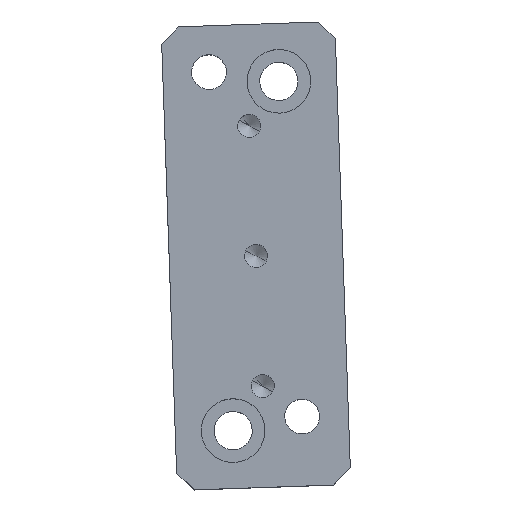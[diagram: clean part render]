
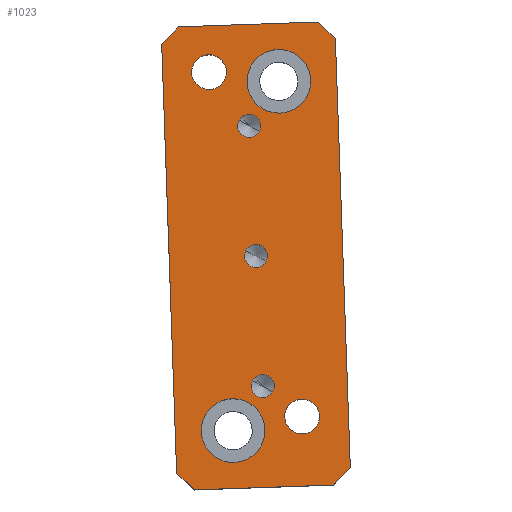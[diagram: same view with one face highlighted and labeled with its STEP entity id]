
A CAD part, top view. The second image highlights one B-rep face of the part: STEP entity #1023.
In plain terms, the highlighted planar face has unit normal (0, 0, 1).
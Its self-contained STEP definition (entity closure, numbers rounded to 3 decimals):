
#38=AXIS2_PLACEMENT_3D('Circle Axis2P3D',#36,#37,$) ;
#81=AXIS2_PLACEMENT_3D('Circle Axis2P3D',#79,#80,$) ;
#327=AXIS2_PLACEMENT_3D('Circle Axis2P3D',#325,#326,$) ;
#354=AXIS2_PLACEMENT_3D('Circle Axis2P3D',#352,#353,$) ;
#372=AXIS2_PLACEMENT_3D('Circle Axis2P3D',#370,#371,$) ;
#399=AXIS2_PLACEMENT_3D('Circle Axis2P3D',#397,#398,$) ;
#417=AXIS2_PLACEMENT_3D('Circle Axis2P3D',#415,#416,$) ;
#444=AXIS2_PLACEMENT_3D('Circle Axis2P3D',#442,#443,$) ;
#462=AXIS2_PLACEMENT_3D('Circle Axis2P3D',#460,#461,$) ;
#489=AXIS2_PLACEMENT_3D('Circle Axis2P3D',#487,#488,$) ;
#507=AXIS2_PLACEMENT_3D('Circle Axis2P3D',#505,#506,$) ;
#534=AXIS2_PLACEMENT_3D('Circle Axis2P3D',#532,#533,$) ;
#642=AXIS2_PLACEMENT_3D('Circle Axis2P3D',#640,#641,$) ;
#678=AXIS2_PLACEMENT_3D('Circle Axis2P3D',#676,#677,$) ;
#978=AXIS2_PLACEMENT_3D('Plane Axis2P3D',#975,#976,#977) ;
#36=CARTESIAN_POINT('Axis2P3D Location',(-8.113,31.736,-3.)) ;
#40=CARTESIAN_POINT('Vertex',(-5.48,30.298,-3.)) ;
#42=CARTESIAN_POINT('Vertex',(-10.745,33.174,-3.)) ;
#79=CARTESIAN_POINT('Axis2P3D Location',(-8.113,31.736,-3.)) ;
#325=CARTESIAN_POINT('Axis2P3D Location',(-1.178,22.469,-3.)) ;
#329=CARTESIAN_POINT('Vertex',(-2.933,23.428,-3.)) ;
#331=CARTESIAN_POINT('Vertex',(0.578,21.51,-3.)) ;
#352=CARTESIAN_POINT('Axis2P3D Location',(-1.178,22.469,-3.)) ;
#370=CARTESIAN_POINT('Axis2P3D Location',(1.178,-22.469,-3.)) ;
#374=CARTESIAN_POINT('Vertex',(-0.578,-21.51,-3.)) ;
#376=CARTESIAN_POINT('Vertex',(2.933,-23.428,-3.)) ;
#397=CARTESIAN_POINT('Axis2P3D Location',(1.178,-22.469,-3.)) ;
#415=CARTESIAN_POINT('Axis2P3D Location',(0.,0.,-3.)) ;
#419=CARTESIAN_POINT('Vertex',(1.755,-0.959,-3.)) ;
#421=CARTESIAN_POINT('Vertex',(-1.755,0.959,-3.)) ;
#442=CARTESIAN_POINT('Axis2P3D Location',(0.,0.,-3.)) ;
#460=CARTESIAN_POINT('Axis2P3D Location',(-3.95,-30.156,-3.)) ;
#464=CARTESIAN_POINT('Vertex',(0.877,-32.793,-3.)) ;
#466=CARTESIAN_POINT('Vertex',(-8.777,-27.519,-3.)) ;
#487=CARTESIAN_POINT('Axis2P3D Location',(-3.95,-30.156,-3.)) ;
#505=CARTESIAN_POINT('Axis2P3D Location',(3.95,30.156,-3.)) ;
#509=CARTESIAN_POINT('Vertex',(-0.877,32.793,-3.)) ;
#511=CARTESIAN_POINT('Vertex',(8.777,27.519,-3.)) ;
#532=CARTESIAN_POINT('Axis2P3D Location',(3.95,30.156,-3.)) ;
#640=CARTESIAN_POINT('Axis2P3D Location',(7.973,-27.739,-3.)) ;
#644=CARTESIAN_POINT('Vertex',(10.606,-29.177,-3.)) ;
#646=CARTESIAN_POINT('Vertex',(5.34,-26.3,-3.)) ;
#676=CARTESIAN_POINT('Axis2P3D Location',(7.973,-27.739,-3.)) ;
#703=CARTESIAN_POINT('Vertex',(-16.282,36.454,-3.)) ;
#708=CARTESIAN_POINT('Line Origine',(-14.835,38.005,-3.)) ;
#712=CARTESIAN_POINT('Vertex',(-13.389,39.557,-3.)) ;
#746=CARTESIAN_POINT('Line Origine',(-1.396,39.976,-3.)) ;
#750=CARTESIAN_POINT('Vertex',(10.597,40.394,-3.)) ;
#770=CARTESIAN_POINT('Line Origine',(12.148,38.948,-3.)) ;
#774=CARTESIAN_POINT('Vertex',(13.7,37.501,-3.)) ;
#801=CARTESIAN_POINT('Line Origine',(-14.991,-0.523,-3.)) ;
#805=CARTESIAN_POINT('Vertex',(-13.7,-37.501,-3.)) ;
#844=CARTESIAN_POINT('Vertex',(-10.597,-40.394,-3.)) ;
#849=CARTESIAN_POINT('Line Origine',(-12.148,-38.948,-3.)) ;
#878=CARTESIAN_POINT('Line Origine',(14.991,0.523,-3.)) ;
#882=CARTESIAN_POINT('Vertex',(16.282,-36.454,-3.)) ;
#910=CARTESIAN_POINT('Line Origine',(1.396,-39.976,-3.)) ;
#914=CARTESIAN_POINT('Vertex',(13.389,-39.557,-3.)) ;
#975=CARTESIAN_POINT('Axis2P3D Location',(0.,0.,-3.)) ;
#980=CARTESIAN_POINT('Line Origine',(14.835,-38.005,-3.)) ;
#37=DIRECTION('Axis2P3D Direction',(0.,-0.,-1.)) ;
#80=DIRECTION('Axis2P3D Direction',(0.,-0.,-1.)) ;
#326=DIRECTION('Axis2P3D Direction',(0.,-0.,-1.)) ;
#353=DIRECTION('Axis2P3D Direction',(0.,-0.,-1.)) ;
#371=DIRECTION('Axis2P3D Direction',(0.,-0.,-1.)) ;
#398=DIRECTION('Axis2P3D Direction',(0.,-0.,-1.)) ;
#416=DIRECTION('Axis2P3D Direction',(0.,-0.,-1.)) ;
#443=DIRECTION('Axis2P3D Direction',(0.,-0.,-1.)) ;
#461=DIRECTION('Axis2P3D Direction',(0.,-0.,-1.)) ;
#488=DIRECTION('Axis2P3D Direction',(0.,-0.,-1.)) ;
#506=DIRECTION('Axis2P3D Direction',(0.,-0.,-1.)) ;
#533=DIRECTION('Axis2P3D Direction',(0.,-0.,-1.)) ;
#641=DIRECTION('Axis2P3D Direction',(0.,-0.,-1.)) ;
#677=DIRECTION('Axis2P3D Direction',(0.,-0.,-1.)) ;
#709=DIRECTION('Vector Direction',(-0.682,-0.731,0.)) ;
#747=DIRECTION('Vector Direction',(0.999,0.035,0.)) ;
#771=DIRECTION('Vector Direction',(0.731,-0.682,0.)) ;
#802=DIRECTION('Vector Direction',(-0.035,0.999,0.)) ;
#850=DIRECTION('Vector Direction',(-0.731,0.682,0.)) ;
#879=DIRECTION('Vector Direction',(0.035,-0.999,0.)) ;
#911=DIRECTION('Vector Direction',(-0.999,-0.035,0.)) ;
#976=DIRECTION('Axis2P3D Direction',(0.,0.,1.)) ;
#977=DIRECTION('Axis2P3D XDirection',(1.,0.,0.)) ;
#981=DIRECTION('Vector Direction',(-0.682,-0.731,0.)) ;
#710=VECTOR('Line Direction',#709,1.) ;
#748=VECTOR('Line Direction',#747,1.) ;
#772=VECTOR('Line Direction',#771,1.) ;
#803=VECTOR('Line Direction',#802,1.) ;
#851=VECTOR('Line Direction',#850,1.) ;
#880=VECTOR('Line Direction',#879,1.) ;
#912=VECTOR('Line Direction',#911,1.) ;
#982=VECTOR('Line Direction',#981,1.) ;
#986=ORIENTED_EDGE('',*,*,#884,.T.) ;
#987=ORIENTED_EDGE('',*,*,#776,.F.) ;
#988=ORIENTED_EDGE('',*,*,#752,.T.) ;
#989=ORIENTED_EDGE('',*,*,#714,.F.) ;
#990=ORIENTED_EDGE('',*,*,#807,.T.) ;
#991=ORIENTED_EDGE('',*,*,#853,.F.) ;
#992=ORIENTED_EDGE('',*,*,#916,.T.) ;
#993=ORIENTED_EDGE('',*,*,#984,.F.) ;
#996=ORIENTED_EDGE('',*,*,#648,.F.) ;
#997=ORIENTED_EDGE('',*,*,#680,.F.) ;
#1000=ORIENTED_EDGE('',*,*,#83,.F.) ;
#1001=ORIENTED_EDGE('',*,*,#44,.F.) ;
#1004=ORIENTED_EDGE('',*,*,#536,.F.) ;
#1005=ORIENTED_EDGE('',*,*,#513,.F.) ;
#1008=ORIENTED_EDGE('',*,*,#491,.F.) ;
#1009=ORIENTED_EDGE('',*,*,#468,.F.) ;
#1012=ORIENTED_EDGE('',*,*,#446,.F.) ;
#1013=ORIENTED_EDGE('',*,*,#423,.F.) ;
#1016=ORIENTED_EDGE('',*,*,#401,.F.) ;
#1017=ORIENTED_EDGE('',*,*,#378,.F.) ;
#1020=ORIENTED_EDGE('',*,*,#356,.F.) ;
#1021=ORIENTED_EDGE('',*,*,#333,.F.) ;
#998=FACE_BOUND('',#995,.T.) ;
#1002=FACE_BOUND('',#999,.T.) ;
#1006=FACE_BOUND('',#1003,.T.) ;
#1010=FACE_BOUND('',#1007,.T.) ;
#1014=FACE_BOUND('',#1011,.T.) ;
#1018=FACE_BOUND('',#1015,.T.) ;
#1022=FACE_BOUND('',#1019,.T.) ;
#1023=ADVANCED_FACE('PartBody',(#994,#998,#1002,#1006,#1010,#1014,#1018,#1022),#979,.T.) ;
#39=CIRCLE('generated circle',#38,3.) ;
#82=CIRCLE('generated circle',#81,3.) ;
#328=CIRCLE('generated circle',#327,2.) ;
#355=CIRCLE('generated circle',#354,2.) ;
#373=CIRCLE('generated circle',#372,2.) ;
#400=CIRCLE('generated circle',#399,2.) ;
#418=CIRCLE('generated circle',#417,2.) ;
#445=CIRCLE('generated circle',#444,2.) ;
#463=CIRCLE('generated circle',#462,5.5) ;
#490=CIRCLE('generated circle',#489,5.5) ;
#508=CIRCLE('generated circle',#507,5.5) ;
#535=CIRCLE('generated circle',#534,5.5) ;
#643=CIRCLE('generated circle',#642,3.) ;
#679=CIRCLE('generated circle',#678,3.) ;
#44=EDGE_CURVE('',#41,#43,#39,.F.) ;
#83=EDGE_CURVE('',#43,#41,#82,.F.) ;
#333=EDGE_CURVE('',#330,#332,#328,.F.) ;
#356=EDGE_CURVE('',#332,#330,#355,.F.) ;
#378=EDGE_CURVE('',#375,#377,#373,.F.) ;
#401=EDGE_CURVE('',#377,#375,#400,.F.) ;
#423=EDGE_CURVE('',#420,#422,#418,.F.) ;
#446=EDGE_CURVE('',#422,#420,#445,.F.) ;
#468=EDGE_CURVE('',#465,#467,#463,.F.) ;
#491=EDGE_CURVE('',#467,#465,#490,.F.) ;
#513=EDGE_CURVE('',#510,#512,#508,.F.) ;
#536=EDGE_CURVE('',#512,#510,#535,.F.) ;
#648=EDGE_CURVE('',#645,#647,#643,.F.) ;
#680=EDGE_CURVE('',#647,#645,#679,.F.) ;
#714=EDGE_CURVE('',#704,#713,#711,.F.) ;
#752=EDGE_CURVE('',#751,#713,#749,.F.) ;
#776=EDGE_CURVE('',#751,#775,#773,.T.) ;
#807=EDGE_CURVE('',#704,#806,#804,.F.) ;
#853=EDGE_CURVE('',#845,#806,#852,.T.) ;
#884=EDGE_CURVE('',#883,#775,#881,.F.) ;
#916=EDGE_CURVE('',#845,#915,#913,.F.) ;
#984=EDGE_CURVE('',#883,#915,#983,.T.) ;
#985=EDGE_LOOP('',(#986,#987,#988,#989,#990,#991,#992,#993)) ;
#995=EDGE_LOOP('',(#996,#997)) ;
#999=EDGE_LOOP('',(#1000,#1001)) ;
#1003=EDGE_LOOP('',(#1004,#1005)) ;
#1007=EDGE_LOOP('',(#1008,#1009)) ;
#1011=EDGE_LOOP('',(#1012,#1013)) ;
#1015=EDGE_LOOP('',(#1016,#1017)) ;
#1019=EDGE_LOOP('',(#1020,#1021)) ;
#994=FACE_OUTER_BOUND('',#985,.T.) ;
#711=LINE('Line',#708,#710) ;
#749=LINE('Line',#746,#748) ;
#773=LINE('Line',#770,#772) ;
#804=LINE('Line',#801,#803) ;
#852=LINE('Line',#849,#851) ;
#881=LINE('Line',#878,#880) ;
#913=LINE('Line',#910,#912) ;
#983=LINE('Line',#980,#982) ;
#979=PLANE('',#978) ;
#41=VERTEX_POINT('',#40) ;
#43=VERTEX_POINT('',#42) ;
#330=VERTEX_POINT('',#329) ;
#332=VERTEX_POINT('',#331) ;
#375=VERTEX_POINT('',#374) ;
#377=VERTEX_POINT('',#376) ;
#420=VERTEX_POINT('',#419) ;
#422=VERTEX_POINT('',#421) ;
#465=VERTEX_POINT('',#464) ;
#467=VERTEX_POINT('',#466) ;
#510=VERTEX_POINT('',#509) ;
#512=VERTEX_POINT('',#511) ;
#645=VERTEX_POINT('',#644) ;
#647=VERTEX_POINT('',#646) ;
#704=VERTEX_POINT('',#703) ;
#713=VERTEX_POINT('',#712) ;
#751=VERTEX_POINT('',#750) ;
#775=VERTEX_POINT('',#774) ;
#806=VERTEX_POINT('',#805) ;
#845=VERTEX_POINT('',#844) ;
#883=VERTEX_POINT('',#882) ;
#915=VERTEX_POINT('',#914) ;
